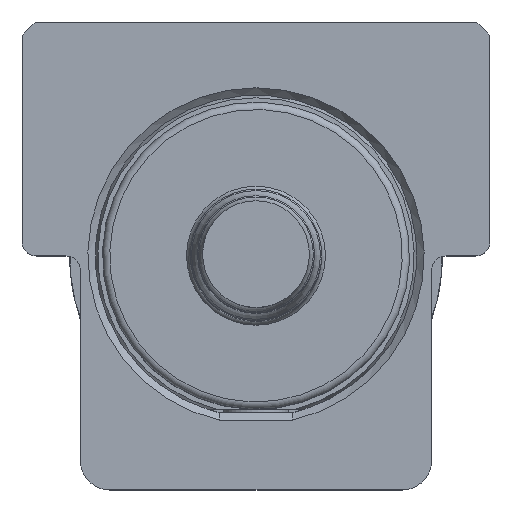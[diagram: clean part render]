
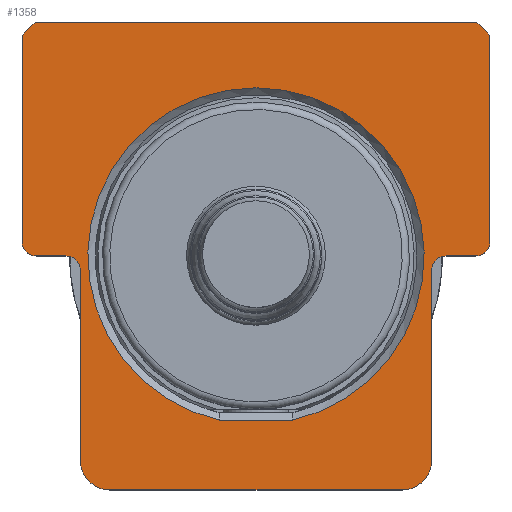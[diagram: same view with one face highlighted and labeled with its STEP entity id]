
A CAD part, top view. The second image highlights one B-rep face of the part: STEP entity #1358.
In plain terms, the highlighted planar face has unit normal (0, 0, 1).
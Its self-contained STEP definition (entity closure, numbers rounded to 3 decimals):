
#50=FACE_BOUND('',#177,.T.);
#63=PLANE('',#1458);
#100=FACE_OUTER_BOUND('',#176,.T.);
#176=EDGE_LOOP('',(#904,#905,#906,#907,#908,#909,#910,#911,#912,#913,#914,
#915,#916,#917,#918,#919));
#177=EDGE_LOOP('',(#920,#921));
#264=CIRCLE('',#1459,2.);
#265=CIRCLE('',#1460,1.);
#266=CIRCLE('',#1461,1.);
#267=CIRCLE('',#1462,22.);
#268=CIRCLE('',#1463,22.);
#269=CIRCLE('',#1464,1.);
#270=CIRCLE('',#1465,1.);
#271=CIRCLE('',#1466,2.);
#272=CIRCLE('',#1467,11.5);
#372=LINE('',#2120,#462);
#373=LINE('',#2127,#463);
#374=LINE('',#2131,#464);
#375=LINE('',#2135,#465);
#376=LINE('',#2139,#466);
#377=LINE('',#2143,#467);
#378=LINE('',#2147,#468);
#379=LINE('',#2151,#469);
#380=LINE('',#2155,#470);
#462=VECTOR('',#1663,10.);
#463=VECTOR('',#1666,10.);
#464=VECTOR('',#1669,10.);
#465=VECTOR('',#1672,10.);
#466=VECTOR('',#1675,10.);
#467=VECTOR('',#1678,10.);
#468=VECTOR('',#1681,10.);
#469=VECTOR('',#1684,10.);
#470=VECTOR('',#1687,10.);
#555=VERTEX_POINT('',#2115);
#556=VERTEX_POINT('',#2119);
#557=VERTEX_POINT('',#2125);
#558=VERTEX_POINT('',#2126);
#559=VERTEX_POINT('',#2128);
#560=VERTEX_POINT('',#2130);
#561=VERTEX_POINT('',#2132);
#562=VERTEX_POINT('',#2134);
#563=VERTEX_POINT('',#2136);
#564=VERTEX_POINT('',#2138);
#565=VERTEX_POINT('',#2140);
#566=VERTEX_POINT('',#2142);
#567=VERTEX_POINT('',#2144);
#568=VERTEX_POINT('',#2146);
#569=VERTEX_POINT('',#2148);
#570=VERTEX_POINT('',#2150);
#571=VERTEX_POINT('',#2152);
#572=VERTEX_POINT('',#2154);
#693=EDGE_CURVE('',#556,#555,#372,.T.);
#695=EDGE_CURVE('',#557,#558,#373,.T.);
#696=EDGE_CURVE('',#559,#557,#264,.T.);
#697=EDGE_CURVE('',#559,#560,#374,.T.);
#698=EDGE_CURVE('',#561,#560,#265,.T.);
#699=EDGE_CURVE('',#561,#562,#375,.T.);
#700=EDGE_CURVE('',#563,#562,#266,.T.);
#701=EDGE_CURVE('',#564,#563,#376,.T.);
#702=EDGE_CURVE('',#565,#564,#267,.T.);
#703=EDGE_CURVE('',#566,#565,#377,.T.);
#704=EDGE_CURVE('',#567,#566,#268,.T.);
#705=EDGE_CURVE('',#568,#567,#378,.T.);
#706=EDGE_CURVE('',#569,#568,#269,.T.);
#707=EDGE_CURVE('',#569,#570,#379,.T.);
#708=EDGE_CURVE('',#571,#570,#270,.T.);
#709=EDGE_CURVE('',#571,#572,#380,.T.);
#710=EDGE_CURVE('',#558,#572,#271,.T.);
#711=EDGE_CURVE('',#556,#555,#272,.T.);
#904=ORIENTED_EDGE('',*,*,#695,.F.);
#905=ORIENTED_EDGE('',*,*,#696,.F.);
#906=ORIENTED_EDGE('',*,*,#697,.T.);
#907=ORIENTED_EDGE('',*,*,#698,.F.);
#908=ORIENTED_EDGE('',*,*,#699,.T.);
#909=ORIENTED_EDGE('',*,*,#700,.F.);
#910=ORIENTED_EDGE('',*,*,#701,.F.);
#911=ORIENTED_EDGE('',*,*,#702,.F.);
#912=ORIENTED_EDGE('',*,*,#703,.F.);
#913=ORIENTED_EDGE('',*,*,#704,.F.);
#914=ORIENTED_EDGE('',*,*,#705,.F.);
#915=ORIENTED_EDGE('',*,*,#706,.F.);
#916=ORIENTED_EDGE('',*,*,#707,.T.);
#917=ORIENTED_EDGE('',*,*,#708,.F.);
#918=ORIENTED_EDGE('',*,*,#709,.T.);
#919=ORIENTED_EDGE('',*,*,#710,.F.);
#920=ORIENTED_EDGE('',*,*,#711,.F.);
#921=ORIENTED_EDGE('',*,*,#693,.T.);
#1358=ADVANCED_FACE('',(#100,#50),#63,.T.);
#1458=AXIS2_PLACEMENT_3D('',#2124,#1664,#1665);
#1459=AXIS2_PLACEMENT_3D('',#2129,#1667,#1668);
#1460=AXIS2_PLACEMENT_3D('',#2133,#1670,#1671);
#1461=AXIS2_PLACEMENT_3D('',#2137,#1673,#1674);
#1462=AXIS2_PLACEMENT_3D('',#2141,#1676,#1677);
#1463=AXIS2_PLACEMENT_3D('',#2145,#1679,#1680);
#1464=AXIS2_PLACEMENT_3D('',#2149,#1682,#1683);
#1465=AXIS2_PLACEMENT_3D('',#2153,#1685,#1686);
#1466=AXIS2_PLACEMENT_3D('',#2156,#1688,#1689);
#1467=AXIS2_PLACEMENT_3D('',#2157,#1690,#1691);
#1663=DIRECTION('',(-1.,0.,0.));
#1664=DIRECTION('center_axis',(0.,0.,1.));
#1665=DIRECTION('ref_axis',(1.,0.,0.));
#1666=DIRECTION('',(-1.,0.,0.));
#1667=DIRECTION('center_axis',(0.,0.,-1.));
#1668=DIRECTION('ref_axis',(0.707,-0.707,0.));
#1669=DIRECTION('',(0.,1.,0.));
#1670=DIRECTION('center_axis',(0.,0.,1.));
#1671=DIRECTION('ref_axis',(-0.707,0.707,0.));
#1672=DIRECTION('',(1.,0.,0.));
#1673=DIRECTION('center_axis',(0.,0.,-1.));
#1674=DIRECTION('ref_axis',(0.707,-0.707,0.));
#1675=DIRECTION('',(0.,-1.,0.));
#1676=DIRECTION('center_axis',(0.,0.,-1.));
#1677=DIRECTION('ref_axis',(0.686,0.727,0.));
#1678=DIRECTION('',(1.,0.,0.));
#1679=DIRECTION('center_axis',(0.,0.,-1.));
#1680=DIRECTION('ref_axis',(-0.727,0.686,0.));
#1681=DIRECTION('',(0.,1.,0.));
#1682=DIRECTION('center_axis',(0.,0.,-1.));
#1683=DIRECTION('ref_axis',(-0.707,-0.707,0.));
#1684=DIRECTION('',(1.,0.,0.));
#1685=DIRECTION('center_axis',(0.,0.,1.));
#1686=DIRECTION('ref_axis',(0.707,0.707,0.));
#1687=DIRECTION('',(0.,-1.,0.));
#1688=DIRECTION('center_axis',(0.,0.,-1.));
#1689=DIRECTION('ref_axis',(-0.707,-0.707,0.));
#1690=DIRECTION('center_axis',(0.,0.,1.));
#1691=DIRECTION('ref_axis',(0.,-1.,0.));
#2115=CARTESIAN_POINT('',(-2.5,-56.225,58.5));
#2119=CARTESIAN_POINT('',(2.5,-56.225,58.5));
#2120=CARTESIAN_POINT('',(2.5,-56.225,58.5));
#2124=CARTESIAN_POINT('Origin',(0.,-34.,
58.5));
#2125=CARTESIAN_POINT('',(10.,-61.,58.5));
#2126=CARTESIAN_POINT('',(-10.,-61.,58.5));
#2127=CARTESIAN_POINT('',(-7.55,-61.,58.5));
#2128=CARTESIAN_POINT('',(12.,-59.,58.5));
#2129=CARTESIAN_POINT('Origin',(10.,-59.,58.5));
#2130=CARTESIAN_POINT('',(12.,-46.,58.5));
#2131=CARTESIAN_POINT('',(12.,-39.5,58.5));
#2132=CARTESIAN_POINT('',(13.,-45.,58.5));
#2133=CARTESIAN_POINT('Origin',(13.,-46.,58.5));
#2134=CARTESIAN_POINT('',(15.,-45.,58.5));
#2135=CARTESIAN_POINT('',(8.,-45.,58.5));
#2136=CARTESIAN_POINT('',(16.,-44.,58.5));
#2137=CARTESIAN_POINT('Origin',(15.,-44.,58.5));
#2138=CARTESIAN_POINT('',(16.,-29.9,58.5));
#2139=CARTESIAN_POINT('',(16.,-52.55,58.5));
#2140=CARTESIAN_POINT('',(15.1,-29.,58.5));
#2141=CARTESIAN_POINT('Origin',(0.,-45.,
58.5));
#2142=CARTESIAN_POINT('',(-15.1,-29.,58.5));
#2143=CARTESIAN_POINT('',(7.55,-29.,58.5));
#2144=CARTESIAN_POINT('',(-16.,-29.9,58.5));
#2145=CARTESIAN_POINT('Origin',(0.,-45.,
58.5));
#2146=CARTESIAN_POINT('',(-16.,-44.,58.5));
#2147=CARTESIAN_POINT('',(-16.,-37.45,58.5));
#2148=CARTESIAN_POINT('',(-15.,-45.,58.5));
#2149=CARTESIAN_POINT('Origin',(-15.,-44.,58.5));
#2150=CARTESIAN_POINT('',(-13.,-45.,58.5));
#2151=CARTESIAN_POINT('',(-6.,-45.,58.5));
#2152=CARTESIAN_POINT('',(-12.,-46.,58.5));
#2153=CARTESIAN_POINT('Origin',(-13.,-46.,58.5));
#2154=CARTESIAN_POINT('',(-12.,-59.,58.5));
#2155=CARTESIAN_POINT('',(-12.,-47.5,58.5));
#2156=CARTESIAN_POINT('Origin',(-10.,-59.,58.5));
#2157=CARTESIAN_POINT('Origin',(0.,-45.,
58.5));
